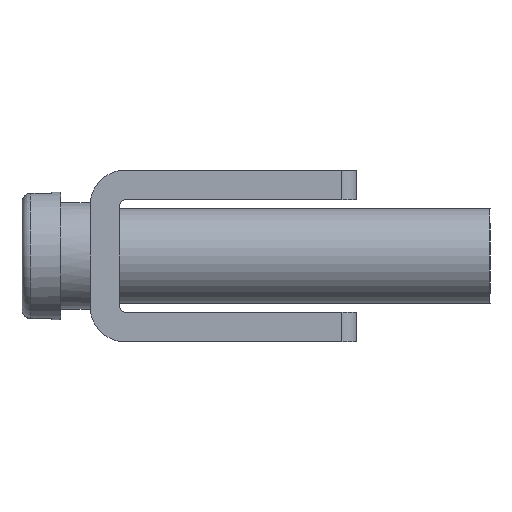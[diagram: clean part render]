
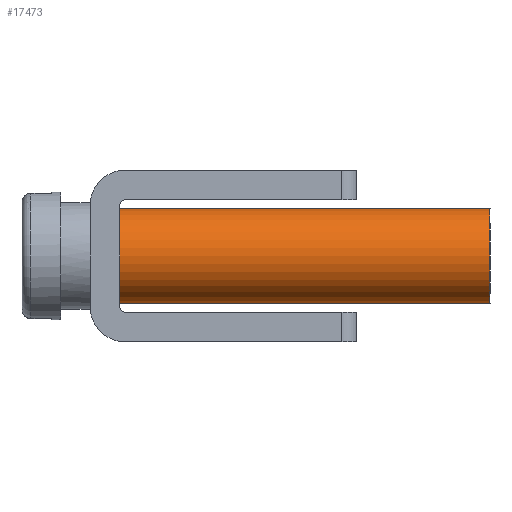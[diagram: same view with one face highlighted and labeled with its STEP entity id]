
A CAD part, left-side view. The second image highlights one B-rep face of the part: STEP entity #17473.
In plain terms, the highlighted cylindrical face has radius 1.6 mm (diameter 3.2 mm), a full revolution.
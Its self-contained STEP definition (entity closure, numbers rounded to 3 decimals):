
#17473 = ADVANCED_FACE('',(#17474),#17487,.T.);
#17474 = FACE_BOUND('',#17475,.T.);
#17475 = EDGE_LOOP('',(#17476,#17497,#17519,#17535,#17549));
#17476 = ORIENTED_EDGE('',*,*,#17477,.F.);
#17477 = EDGE_CURVE('',#17478,#17478,#17480,.T.);
#17478 = VERTEX_POINT('',#17479);
#17479 = CARTESIAN_POINT('',(-35.3,34.,-5.55));
#17480 = SURFACE_CURVE('',#17481,(#17486),.PCURVE_S1.);
#17481 = CIRCLE('',#17482,1.6);
#17482 = AXIS2_PLACEMENT_3D('',#17483,#17484,#17485);
#17483 = CARTESIAN_POINT('',(-35.3,34.,-3.95));
#17484 = DIRECTION('',(0.,1.,0.));
#17485 = DIRECTION('',(0.,0.,-1.));
#17486 = PCURVE('',#17487,#17492);
#17487 = CYLINDRICAL_SURFACE('',#17488,1.6);
#17488 = AXIS2_PLACEMENT_3D('',#17489,#17490,#17491);
#17489 = CARTESIAN_POINT('',(-35.3,21.5,-3.95));
#17490 = DIRECTION('',(0.,1.,0.));
#17491 = DIRECTION('',(0.,0.,-1.));
#17492 = DEFINITIONAL_REPRESENTATION('',(#17493),#17496);
#17493 = B_SPLINE_CURVE_WITH_KNOTS('',1,(#17494,#17495),.UNSPECIFIED.,
  .F.,.F.,(2,2),(0.,6.283),.PIECEWISE_BEZIER_KNOTS.);
#17494 = CARTESIAN_POINT('',(0.,12.5));
#17495 = CARTESIAN_POINT('',(6.283,12.5));
#17496 = ( GEOMETRIC_REPRESENTATION_CONTEXT(2) 
PARAMETRIC_REPRESENTATION_CONTEXT() REPRESENTATION_CONTEXT('2D SPACE',''
  ) );
#17497 = ORIENTED_EDGE('',*,*,#17498,.F.);
#17498 = EDGE_CURVE('',#17499,#17478,#17501,.T.);
#17499 = VERTEX_POINT('',#17500);
#17500 = CARTESIAN_POINT('',(-35.3,21.5,-5.55));
#17501 = SEAM_CURVE('',#17502,(#17505,#17512),.PCURVE_S1.);
#17502 = B_SPLINE_CURVE_WITH_KNOTS('',1,(#17503,#17504),.UNSPECIFIED.,
  .F.,.F.,(2,2),(0.,12.5),.PIECEWISE_BEZIER_KNOTS.);
#17503 = CARTESIAN_POINT('',(-35.3,21.5,-5.55));
#17504 = CARTESIAN_POINT('',(-35.3,34.,-5.55));
#17505 = PCURVE('',#17487,#17506);
#17506 = DEFINITIONAL_REPRESENTATION('',(#17507),#17511);
#17507 = LINE('',#17508,#17509);
#17508 = CARTESIAN_POINT('',(0.,0.));
#17509 = VECTOR('',#17510,1.);
#17510 = DIRECTION('',(0.,1.));
#17511 = ( GEOMETRIC_REPRESENTATION_CONTEXT(2) 
PARAMETRIC_REPRESENTATION_CONTEXT() REPRESENTATION_CONTEXT('2D SPACE',''
  ) );
#17512 = PCURVE('',#17487,#17513);
#17513 = DEFINITIONAL_REPRESENTATION('',(#17514),#17518);
#17514 = LINE('',#17515,#17516);
#17515 = CARTESIAN_POINT('',(6.283,0.));
#17516 = VECTOR('',#17517,1.);
#17517 = DIRECTION('',(0.,1.));
#17518 = ( GEOMETRIC_REPRESENTATION_CONTEXT(2) 
PARAMETRIC_REPRESENTATION_CONTEXT() REPRESENTATION_CONTEXT('2D SPACE',''
  ) );
#17519 = ORIENTED_EDGE('',*,*,#17520,.F.);
#17520 = EDGE_CURVE('',#17521,#17499,#17523,.T.);
#17521 = VERTEX_POINT('',#17522);
#17522 = CARTESIAN_POINT('',(-35.3,21.5,-2.35));
#17523 = SURFACE_CURVE('',#17524,(#17529),.PCURVE_S1.);
#17524 = CIRCLE('',#17525,1.6);
#17525 = AXIS2_PLACEMENT_3D('',#17526,#17527,#17528);
#17526 = CARTESIAN_POINT('',(-35.3,21.5,-3.95));
#17527 = DIRECTION('',(0.,-1.,0.));
#17528 = DIRECTION('',(0.,0.,1.));
#17529 = PCURVE('',#17487,#17530);
#17530 = DEFINITIONAL_REPRESENTATION('',(#17531),#17534);
#17531 = B_SPLINE_CURVE_WITH_KNOTS('',1,(#17532,#17533),.UNSPECIFIED.,
  .F.,.F.,(2,2),(0.,6.283),.PIECEWISE_BEZIER_KNOTS.);
#17532 = CARTESIAN_POINT('',(3.142,0.));
#17533 = CARTESIAN_POINT('',(-3.142,0.));
#17534 = ( GEOMETRIC_REPRESENTATION_CONTEXT(2) 
PARAMETRIC_REPRESENTATION_CONTEXT() REPRESENTATION_CONTEXT('2D SPACE',''
  ) );
#17535 = ORIENTED_EDGE('',*,*,#17536,.F.);
#17536 = EDGE_CURVE('',#17499,#17521,#17537,.T.);
#17537 = SURFACE_CURVE('',#17538,(#17543),.PCURVE_S1.);
#17538 = CIRCLE('',#17539,1.6);
#17539 = AXIS2_PLACEMENT_3D('',#17540,#17541,#17542);
#17540 = CARTESIAN_POINT('',(-35.3,21.5,-3.95));
#17541 = DIRECTION('',(0.,-1.,0.));
#17542 = DIRECTION('',(0.,0.,1.));
#17543 = PCURVE('',#17487,#17544);
#17544 = DEFINITIONAL_REPRESENTATION('',(#17545),#17548);
#17545 = B_SPLINE_CURVE_WITH_KNOTS('',1,(#17546,#17547),.UNSPECIFIED.,
  .F.,.F.,(2,2),(0.,6.283),.PIECEWISE_BEZIER_KNOTS.);
#17546 = CARTESIAN_POINT('',(9.425,0.));
#17547 = CARTESIAN_POINT('',(3.142,0.));
#17548 = ( GEOMETRIC_REPRESENTATION_CONTEXT(2) 
PARAMETRIC_REPRESENTATION_CONTEXT() REPRESENTATION_CONTEXT('2D SPACE',''
  ) );
#17549 = ORIENTED_EDGE('',*,*,#17498,.T.);
